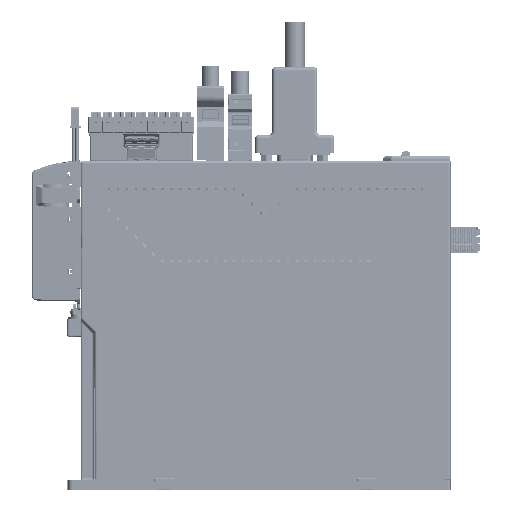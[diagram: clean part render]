
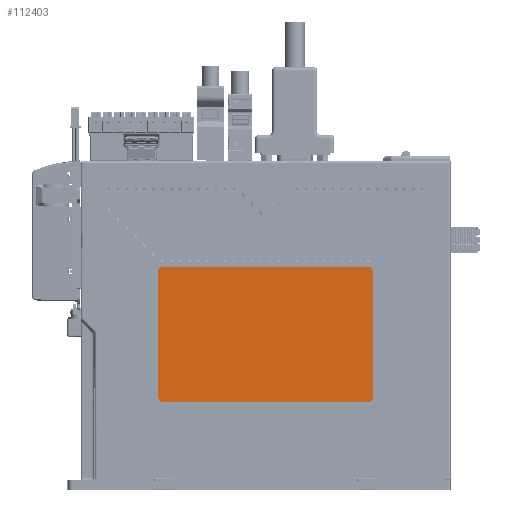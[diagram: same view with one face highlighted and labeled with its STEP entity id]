
A CAD part, left-side view. The second image highlights one B-rep face of the part: STEP entity #112403.
In plain terms, the highlighted planar face has unit normal (-1, 0, 0).
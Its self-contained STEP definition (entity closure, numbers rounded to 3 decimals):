
#31612=DIRECTION('',(0.,0.,1.));
#31613=VECTOR('',#31612,56.);
#31614=CARTESIAN_POINT('',(-19.2,-47.5,41.));
#31615=LINE('',#31614,#31613);
#31624=CARTESIAN_POINT('',(-19.2,45.5,97.));
#31625=DIRECTION('',(1.,0.,0.));
#31626=DIRECTION('',(0.,1.,0.));
#31627=AXIS2_PLACEMENT_3D('',#31624,#31625,#31626);
#31629=DIRECTION('',(0.,-1.,0.));
#31630=VECTOR('',#31629,91.);
#31631=CARTESIAN_POINT('',(-19.2,45.5,99.));
#31632=LINE('',#31631,#31630);
#31633=CARTESIAN_POINT('',(-19.2,-45.5,97.));
#31634=DIRECTION('',(1.,0.,0.));
#31635=DIRECTION('',(0.,0.,1.));
#31636=AXIS2_PLACEMENT_3D('',#31633,#31634,#31635);
#31638=CARTESIAN_POINT('',(-19.2,-45.5,41.));
#31639=DIRECTION('',(1.,0.,0.));
#31640=DIRECTION('',(0.,-1.,0.));
#31641=AXIS2_PLACEMENT_3D('',#31638,#31639,#31640);
#31643=DIRECTION('',(0.,1.,0.));
#31644=VECTOR('',#31643,91.);
#31645=CARTESIAN_POINT('',(-19.2,-45.5,39.));
#31646=LINE('',#31645,#31644);
#31647=CARTESIAN_POINT('',(-19.2,45.5,41.));
#31648=DIRECTION('',(1.,0.,0.));
#31649=DIRECTION('',(0.,0.,-1.));
#31650=AXIS2_PLACEMENT_3D('',#31647,#31648,#31649);
#31652=DIRECTION('',(0.,0.,1.));
#31653=VECTOR('',#31652,56.);
#31654=CARTESIAN_POINT('',(-19.2,47.5,41.));
#31655=LINE('',#31654,#31653);
#56916=CARTESIAN_POINT('',(-19.2,-47.5,97.));
#56917=VERTEX_POINT('',#56916);
#56918=CARTESIAN_POINT('',(-19.2,-47.5,41.));
#56919=VERTEX_POINT('',#56918);
#56920=CARTESIAN_POINT('',(-19.2,-45.5,99.));
#56921=VERTEX_POINT('',#56920);
#56922=CARTESIAN_POINT('',(-19.2,47.5,97.));
#56923=CARTESIAN_POINT('',(-19.2,45.5,99.));
#56924=VERTEX_POINT('',#56922);
#56925=VERTEX_POINT('',#56923);
#56926=CARTESIAN_POINT('',(-19.2,-45.5,39.));
#56927=VERTEX_POINT('',#56926);
#56928=CARTESIAN_POINT('',(-19.2,45.5,39.));
#56929=VERTEX_POINT('',#56928);
#56930=CARTESIAN_POINT('',(-19.2,47.5,41.));
#56931=VERTEX_POINT('',#56930);
#112382=CARTESIAN_POINT('',(-19.2,0.,69.));
#112383=DIRECTION('',(1.,0.,0.));
#112384=DIRECTION('',(0.,-1.,0.));
#112385=AXIS2_PLACEMENT_3D('',#112382,#112383,#112384);
#112386=PLANE('',#112385);
#112388=ORIENTED_EDGE('',*,*,#112387,.T.);
#112390=ORIENTED_EDGE('',*,*,#112389,.T.);
#112391=ORIENTED_EDGE('',*,*,#112366,.T.);
#112392=ORIENTED_EDGE('',*,*,#112349,.F.);
#112394=ORIENTED_EDGE('',*,*,#112393,.T.);
#112396=ORIENTED_EDGE('',*,*,#112395,.T.);
#112398=ORIENTED_EDGE('',*,*,#112397,.T.);
#112400=ORIENTED_EDGE('',*,*,#112399,.T.);
#112401=EDGE_LOOP('',(#112388,#112390,#112391,#112392,#112394,#112396,#112398,
#112400));
#112402=FACE_OUTER_BOUND('',#112401,.F.);
#31628=CIRCLE('',#31627,2.);
#31637=CIRCLE('',#31636,2.);
#31642=CIRCLE('',#31641,2.);
#31651=CIRCLE('',#31650,2.);
#112349=EDGE_CURVE('',#56919,#56917,#31615,.T.);
#112366=EDGE_CURVE('',#56921,#56917,#31637,.T.);
#112387=EDGE_CURVE('',#56924,#56925,#31628,.T.);
#112389=EDGE_CURVE('',#56925,#56921,#31632,.T.);
#112393=EDGE_CURVE('',#56919,#56927,#31642,.T.);
#112395=EDGE_CURVE('',#56927,#56929,#31646,.T.);
#112397=EDGE_CURVE('',#56929,#56931,#31651,.T.);
#112399=EDGE_CURVE('',#56931,#56924,#31655,.T.);
#112403=ADVANCED_FACE('',(#112402),#112386,.F.);
